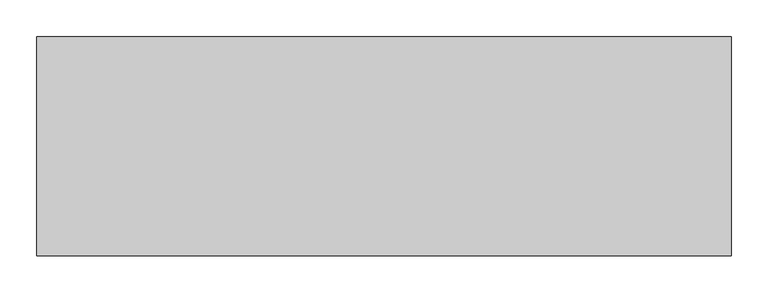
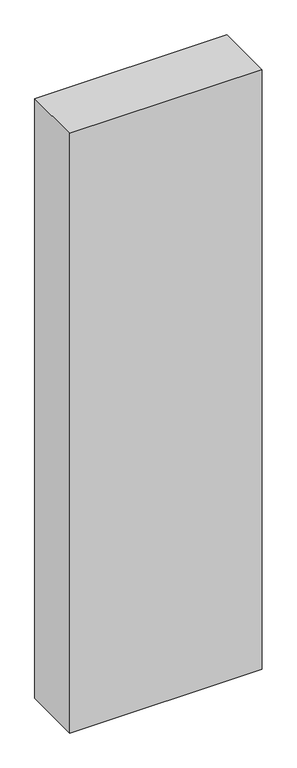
"""IFC4 building model written with IfcOpenShell, lengths in millimetres: proxy geometry."""

import ifcopenshell
import ifcopenshell.guid

model = None  # the IFC model being written
_history = None  # IfcOwnerHistory: only IFC2X3 demands one
_inside = {}  # id of a spatial element -> (the spatial element, [elements in it])
_under = {}  # id of a project, library or spatial element -> (it, [spatial elements below it])
_declared = {}  # id of a project -> (the project, [libraries it declares])
_typed = {}  # id of a type object -> (the type object, [elements of that type])
_made_of = {}  # id of a material, layer set ... -> (it, [elements and type objects made of it])


def new_model(schema):
    """Start an empty IFC model of exactly this schema.

    Asked for "IFC4X3", IfcOpenShell would pick the latest addendum, in which some entities
    have other attributes; the version numbers below select the first issue.
    IFC2X3 requires an IfcOwnerHistory on every rooted entity: one is made here for all.
    """
    global model, _history
    if schema == "IFC4X3":
        model = ifcopenshell.file(schema_version=(4, 3, 0, 0))
    else:
        model = ifcopenshell.file(schema=schema)
    _inside.clear()
    _under.clear()
    _declared.clear()
    _typed.clear()
    _made_of.clear()
    _history = None
    if model.schema == "IFC2X3":
        org = make("IfcOrganization", Name="unknown")
        user = make(
            "IfcPersonAndOrganization",
            ThePerson=make("IfcPerson", FamilyName="unknown"),
            TheOrganization=org,
        )
        app = make(
            "IfcApplication",
            ApplicationDeveloper=org,
            Version="unknown",
            ApplicationFullName="unknown",
            ApplicationIdentifier="unknown",
        )
        _history = make(
            "IfcOwnerHistory",
            OwningUser=user,
            OwningApplication=app,
            ChangeAction="ADDED",
            CreationDate=0,
        )
    return model


def make(cls, **values):
    """One entity of the class cls with the attributes given. An attribute that is None is left unset."""
    return model.create_entity(
        cls, **{name: value for name, value in values.items() if value is not None}
    )


def rooted(cls, **values):
    """An entity with a GlobalId (a new one), such as an element, a storey or a relation."""
    return make(cls, GlobalId=ifcopenshell.guid.new(), OwnerHistory=_history, **values)


def si_unit(unit_type, name, prefix=None):
    """IfcSIUnit, for example si_unit("LENGTHUNIT", "METRE", prefix="MILLI")."""
    return make("IfcSIUnit", UnitType=unit_type, Prefix=prefix, Name=name)


def assignment(units):
    """IfcUnitAssignment: the units of a project."""
    return None if units is None else make("IfcUnitAssignment", Units=units)


def point(xyz):
    """IfcCartesianPoint."""
    return None if xyz is None else make("IfcCartesianPoint", Coordinates=xyz)


def direction(xyz):
    """IfcDirection."""
    return None if xyz is None else make("IfcDirection", DirectionRatios=xyz)


def frame(location, z_axis=None, x_axis=None):
    """IfcAxis2Placement3D, a coordinate frame: its origin and axes. An axis left out is left unset."""
    return make(
        "IfcAxis2Placement3D",
        Location=point(location),
        Axis=direction(z_axis),
        RefDirection=direction(x_axis),
    )


def origin():
    """The frame at (0, 0, 0) with its axes left unset."""
    return frame((0.0, 0.0, 0.0))


def origin_with_axes():
    """The frame at (0, 0, 0) with the z axis (0, 0, 1) and the x axis (1, 0, 0) written out."""
    return frame((0.0, 0.0, 0.0), z_axis=(0.0, 0.0, 1.0), x_axis=(1.0, 0.0, 0.0))


def place(relative_to, where):
    """IfcLocalPlacement: puts the frame where relative to a parent placement (None: the world)."""
    return make(
        "IfcLocalPlacement", PlacementRelTo=relative_to, RelativePlacement=where
    )


def context(
    kind, dimensions, precision=None, world=None, true_north=None, identifier=None
):
    """IfcGeometricRepresentationContext, for example the 3D "Model" context."""
    return make(
        "IfcGeometricRepresentationContext",
        ContextIdentifier=identifier,
        ContextType=kind,
        CoordinateSpaceDimension=dimensions,
        Precision=precision,
        WorldCoordinateSystem=world,
        TrueNorth=true_north,
    )


def project(units=None, contexts=None):
    """IfcProject with its units and contexts."""
    return rooted(
        "IfcProject",
        Name="project",
        RepresentationContexts=contexts,
        UnitsInContext=assignment(units),
    )


def spatial(cls, under=None, at=None, **own):
    """A site, building, storey or space (cls), placed at a placement, below another one or the project."""
    s = rooted(cls, ObjectPlacement=at, **own)
    if under is not None:
        _under.setdefault(under.id(), (under, []))[1].append(s)
    return s


def polyline(points):
    """IfcPolyline through the points."""
    return make("IfcPolyline", Points=[point(p) for p in points])


def outline(outer, holes=None, kind="AREA"):
    """IfcArbitraryClosedProfileDef: a profile drawn as a closed curve; with holes, ...WithVoids."""
    if holes is None:
        return make("IfcArbitraryClosedProfileDef", ProfileType=kind, OuterCurve=outer)
    return make(
        "IfcArbitraryProfileDefWithVoids",
        ProfileType=kind,
        OuterCurve=outer,
        InnerCurves=holes,
    )


def extrude(swept, where, along, depth):
    """IfcExtrudedAreaSolid: the profile swept, set in the frame where, extruded along a direction by depth."""
    return make(
        "IfcExtrudedAreaSolid",
        SweptArea=swept,
        Position=where,
        ExtrudedDirection=direction(along),
        Depth=depth,
    )


def shape(context_of_items, identifier, shape_type, items):
    """IfcShapeRepresentation: the items that make up one representation, for example the "Body"."""
    return make(
        "IfcShapeRepresentation",
        ContextOfItems=context_of_items,
        RepresentationIdentifier=identifier,
        RepresentationType=shape_type,
        Items=items,
    )


def source(mapping_origin, context_of_items, identifier, shape_type, items):
    """IfcRepresentationMap: a shape defined once, which mapped items show again and again."""
    return make(
        "IfcRepresentationMap",
        MappingOrigin=mapping_origin,
        MappedRepresentation=shape(context_of_items, identifier, shape_type, items),
    )


def transform(
    local_origin,
    x_axis=None,
    y_axis=None,
    z_axis=None,
    scale=None,
    scale2=None,
    scale3=None,
    uniform=True,
):
    """IfcCartesianTransformationOperator3D, or its non-uniform kind. x_axis, y_axis, z_axis: its Axis1, 2, 3."""
    if uniform:
        return make(
            "IfcCartesianTransformationOperator3D",
            Axis1=direction(x_axis),
            Axis2=direction(y_axis),
            LocalOrigin=point(local_origin),
            Scale=scale,
            Axis3=direction(z_axis),
        )
    return make(
        "IfcCartesianTransformationOperator3DnonUniform",
        Axis1=direction(x_axis),
        Axis2=direction(y_axis),
        LocalOrigin=point(local_origin),
        Scale=scale,
        Axis3=direction(z_axis),
        Scale2=scale2,
        Scale3=scale3,
    )


def mapped(mapping_source, mapping_target):
    """IfcMappedItem: shows the shape of a source again, moved by a transform."""
    return make(
        "IfcMappedItem", MappingSource=mapping_source, MappingTarget=mapping_target
    )


def made_of(thing, what):
    """Note that an element or type object is made of a material, layer set ...; save() writes the relation."""
    if what is not None:
        _made_of.setdefault(what.id(), (what, []))[1].append(thing)
    return thing


def element(
    cls,
    number,
    at=None,
    inside=None,
    cuts=None,
    type_object=None,
    material=None,
    context=None,
    identifier="Body",
    shape_type=None,
    held_by="IfcProductDefinitionShape",
    body=None,
    shapes=None,
    **own,
):
    """One element of the class cls, such as IfcWall. Its Tag is "e" and its number.

    at: its placement. inside: the storey or other place that contains it. cuts: it is an
    opening in that element (IfcRelVoidsElement). A single representation is given by context,
    identifier, shape_type and body (its items); several are given by shapes. held_by: the class
    of the entity that holds the representations. save() writes the other relations.
    """
    e = rooted(cls, Tag="e%d" % number, ObjectPlacement=at, **own)
    if body is not None:
        shapes = [shape(context, identifier, shape_type, body)]
    if shapes is not None:
        e.Representation = make(held_by, Representations=shapes)
    if inside is not None:
        _inside.setdefault(inside.id(), (inside, []))[1].append(e)
    if cuts is not None:
        rooted(
            "IfcRelVoidsElement", RelatingBuildingElement=cuts, RelatedOpeningElement=e
        )
    if type_object is not None:
        _typed.setdefault(type_object.id(), (type_object, []))[1].append(e)
    return made_of(e, material)


def aggregate(whole, parts):
    """IfcRelAggregates: a whole, such as a stair, and the parts it consists of."""
    return rooted("IfcRelAggregates", RelatingObject=whole, RelatedObjects=parts)


def save(model, path):
    """Write the relations noted so far, then the file.

    IfcRelAggregates (storeys below a building ...), IfcRelContainedInSpatialStructure (elements
    in a storey), IfcRelDefinesByType, IfcRelAssociatesMaterial and IfcRelDeclares: one each for
    every whole, place, type object, material and project.
    """
    for whole, parts in _under.values():
        aggregate(whole, parts)
    for where, things in _inside.values():
        rooted(
            "IfcRelContainedInSpatialStructure",
            RelatedElements=things,
            RelatingStructure=where,
        )
    for kind, things in _typed.values():
        rooted("IfcRelDefinesByType", RelatedObjects=things, RelatingType=kind)
    for what, things in _made_of.values():
        rooted("IfcRelAssociatesMaterial", RelatedObjects=things, RelatingMaterial=what)
    for by, libraries in _declared.values():
        rooted("IfcRelDeclares", RelatingContext=by, RelatedDefinitions=libraries)
    model.write(path)


def generic_models_9b66aa51(model_context):
    return source(origin(), model_context, "Body", "SweptSolid", [
        extrude(outline(polyline([(-96049.873809, -45285.0027343), (-95099.873809, -45285.0027343), (-95099.873809, -45585.0027343), (-96049.873809, -45585.0027343), (-96049.873809, -45285.0027343)])), origin_with_axes(), (0.0, 0.0, 1.0), 3130.0),
    ])


if __name__ == "__main__":
    model = new_model("IFC4")
    model_context = context("Model", 3, world=origin())
    ifc_project = project(units=[si_unit("LENGTHUNIT", "METRE", prefix="MILLI")], contexts=[model_context])
    site = spatial("IfcSite", under=ifc_project)
    building = spatial("IfcBuilding", under=site)
    placement = place(None, origin())
    generic_models_shape = generic_models_9b66aa51(model_context)
    element("IfcBuildingElementProxy", 1, Name="Generic Models", at=placement, inside=building, context=model_context, shape_type="MappedRepresentation", body=[
        mapped(generic_models_shape, transform((0.0, 0.0, 0.0), x_axis=(1.0, 0.0, 0.0), y_axis=(0.0, 1.0, 0.0), z_axis=(0.0, 0.0, 1.0))),
    ])
    save(model, "model.ifc")
